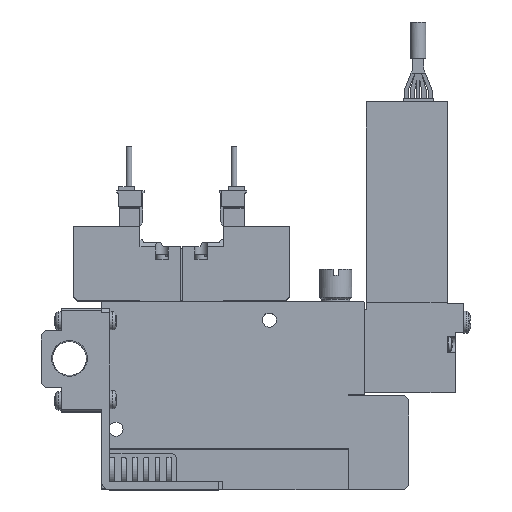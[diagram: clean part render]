
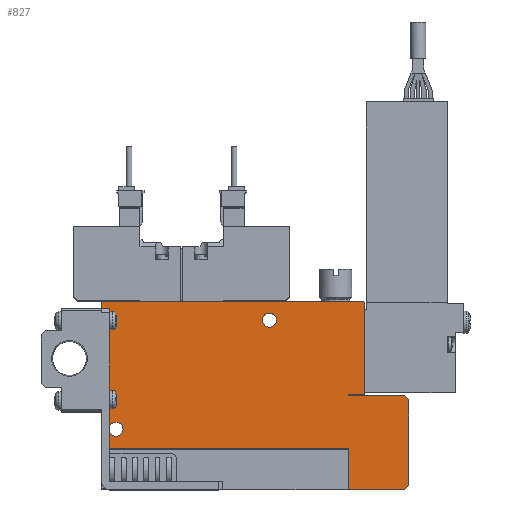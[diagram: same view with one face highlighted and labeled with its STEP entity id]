
A CAD part, top view. The second image highlights one B-rep face of the part: STEP entity #827.
In plain terms, the highlighted planar face has unit normal (0, 0, 1).
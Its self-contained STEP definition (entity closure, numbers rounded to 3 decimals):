
#827=ADVANCED_FACE('',(#1982,#1983,#1984),#1985,.F.);
#1982=FACE_OUTER_BOUND('',#3468,.T.);
#1983=FACE_BOUND('',#3469,.T.);
#1984=FACE_BOUND('',#3470,.T.);
#1985=PLANE('',#3471);
#3468=EDGE_LOOP('',(#7532,#7533,#7534,#7535,#7536,#7537,#7538,#7539,#7540,#7541,#7542,#7543,#7544,#7545));
#3469=EDGE_LOOP('',(#7546));
#3470=EDGE_LOOP('',(#7547));
#3471=AXIS2_PLACEMENT_3D('',#7548,#7549,#7550);
#7532=ORIENTED_EDGE('',*,*,#10545,.T.);
#7533=ORIENTED_EDGE('',*,*,#10508,.F.);
#7534=ORIENTED_EDGE('',*,*,#10431,.F.);
#7535=ORIENTED_EDGE('',*,*,#10562,.T.);
#7536=ORIENTED_EDGE('',*,*,#10623,.T.);
#7537=ORIENTED_EDGE('',*,*,#10558,.T.);
#7538=ORIENTED_EDGE('',*,*,#10498,.T.);
#7539=ORIENTED_EDGE('',*,*,#10624,.T.);
#7540=ORIENTED_EDGE('',*,*,#10564,.T.);
#7541=ORIENTED_EDGE('',*,*,#10506,.T.);
#7542=ORIENTED_EDGE('',*,*,#10625,.T.);
#7543=ORIENTED_EDGE('',*,*,#10626,.T.);
#7544=ORIENTED_EDGE('',*,*,#10627,.T.);
#7545=ORIENTED_EDGE('',*,*,#10576,.T.);
#7546=ORIENTED_EDGE('',*,*,#10567,.F.);
#7547=ORIENTED_EDGE('',*,*,#10366,.F.);
#7548=CARTESIAN_POINT('',(0.0,0.0,5.0));
#7549=DIRECTION('',(0.0,0.0,-1.0));
#7550=DIRECTION('',(0.0,-1.0,0.0));
#10366=EDGE_CURVE('',#12721,#12721,#12722,.T.);
#10431=EDGE_CURVE('',#12836,#12838,#12839,.T.);
#10498=EDGE_CURVE('',#12961,#12959,#12962,.T.);
#10506=EDGE_CURVE('',#12976,#12974,#12977,.T.);
#10508=EDGE_CURVE('',#12838,#12979,#12980,.T.);
#10545=EDGE_CURVE('',#13037,#12979,#13038,.T.);
#10558=EDGE_CURVE('',#13059,#12961,#13060,.T.);
#10562=EDGE_CURVE('',#12836,#13064,#13066,.T.);
#10564=EDGE_CURVE('',#13069,#12976,#13070,.T.);
#10567=EDGE_CURVE('',#13074,#13074,#13075,.T.);
#10576=EDGE_CURVE('',#13087,#13037,#13088,.T.);
#10623=EDGE_CURVE('',#13064,#13059,#13157,.T.);
#10624=EDGE_CURVE('',#12959,#13069,#13158,.T.);
#10625=EDGE_CURVE('',#12974,#13159,#13160,.T.);
#10626=EDGE_CURVE('',#13159,#13161,#13162,.T.);
#10627=EDGE_CURVE('',#13161,#13087,#13163,.T.);
#12721=VERTEX_POINT('',#16649);
#12722=CIRCLE('',#16650,1.75);
#12836=VERTEX_POINT('',#16857);
#12838=VERTEX_POINT('',#16860);
#12839=LINE('',#16861,#16862);
#12959=VERTEX_POINT('',#17068);
#12961=VERTEX_POINT('',#17071);
#12962=LINE('',#17072,#17073);
#12974=VERTEX_POINT('',#17090);
#12976=VERTEX_POINT('',#17093);
#12977=LINE('',#17094,#17095);
#12979=VERTEX_POINT('',#17098);
#12980=LINE('',#17099,#17100);
#13037=VERTEX_POINT('',#17185);
#13038=LINE('',#17186,#17187);
#13059=VERTEX_POINT('',#17219);
#13060=LINE('',#17220,#17221);
#13064=VERTEX_POINT('',#17227);
#13066=LINE('',#17230,#17231);
#13069=VERTEX_POINT('',#17235);
#13070=LINE('',#17236,#17237);
#13074=VERTEX_POINT('',#17242);
#13075=CIRCLE('',#17243,1.75);
#13087=VERTEX_POINT('',#17271);
#13088=LINE('',#17272,#17273);
#13157=LINE('',#17378,#17379);
#13158=LINE('',#17380,#17381);
#13159=VERTEX_POINT('',#17382);
#13160=LINE('',#17383,#17384);
#13161=VERTEX_POINT('',#17385);
#13162=LINE('',#17386,#17387);
#13163=LINE('',#17388,#17389);
#16649=CARTESIAN_POINT('',(43.25,42.0,5.0));
#16650=AXIS2_PLACEMENT_3D('',#20319,#20320,#20321);
#16857=CARTESIAN_POINT('',(61.1,0.0,5.0));
#16860=CARTESIAN_POINT('',(61.1,10.1,5.0));
#16861=CARTESIAN_POINT('',(61.1,0.0,5.0));
#16862=VECTOR('',#20407,1.0);
#17068=CARTESIAN_POINT('',(75.0,23.25,5.0));
#17071=CARTESIAN_POINT('',(76.0,22.25,5.0));
#17072=CARTESIAN_POINT('',(76.0,22.25,5.0));
#17073=VECTOR('',#20494,1.0);
#17090=CARTESIAN_POINT('',(65.0,23.5,5.0));
#17093=CARTESIAN_POINT('',(61.0,23.5,5.0));
#17094=CARTESIAN_POINT('',(61.0,23.5,5.0));
#17095=VECTOR('',#20504,1.0);
#17098=CARTESIAN_POINT('',(0.0,10.1,5.0));
#17099=CARTESIAN_POINT('',(61.1,10.1,5.0));
#17100=VECTOR('',#20506,1.0);
#17185=CARTESIAN_POINT('',(0.0,46.4,5.0));
#17186=CARTESIAN_POINT('',(0.0,46.4,5.0));
#17187=VECTOR('',#20559,1.0);
#17219=CARTESIAN_POINT('',(76.0,1.0,5.0));
#17220=CARTESIAN_POINT('',(76.0,1.0,5.0));
#17221=VECTOR('',#20574,1.0);
#17227=CARTESIAN_POINT('',(75.0,0.0,5.0));
#17230=CARTESIAN_POINT('',(0.0,0.0,5.0));
#17231=VECTOR('',#20578,1.0);
#17235=CARTESIAN_POINT('',(61.0,23.25,5.0));
#17236=CARTESIAN_POINT('',(61.0,23.25,5.0));
#17237=VECTOR('',#20580,1.0);
#17242=CARTESIAN_POINT('',(5.25,15.0,5.0));
#17243=AXIS2_PLACEMENT_3D('',#20585,#20586,#20587);
#17271=CARTESIAN_POINT('',(0.2,46.6,5.0));
#17272=CARTESIAN_POINT('',(0.2,46.6,5.0));
#17273=VECTOR('',#20597,1.0);
#17378=CARTESIAN_POINT('',(75.0,0.0,5.0));
#17379=VECTOR('',#20664,1.0);
#17380=CARTESIAN_POINT('',(75.0,23.25,5.0));
#17381=VECTOR('',#20665,1.0);
#17382=CARTESIAN_POINT('',(65.0,46.4,5.0));
#17383=CARTESIAN_POINT('',(65.0,23.5,5.0));
#17384=VECTOR('',#20666,1.0);
#17385=CARTESIAN_POINT('',(64.8,46.6,5.0));
#17386=CARTESIAN_POINT('',(65.0,46.4,5.0));
#17387=VECTOR('',#20667,1.0);
#17388=CARTESIAN_POINT('',(64.8,46.6,5.0));
#17389=VECTOR('',#20668,1.0);
#20319=CARTESIAN_POINT('',(41.5,42.0,5.0));
#20320=DIRECTION('',(0.0,0.0,1.0));
#20321=DIRECTION('',(1.0,0.0,0.0));
#20407=DIRECTION('',(0.0,1.0,0.0));
#20494=DIRECTION('',(-0.707,0.707,0.0));
#20504=DIRECTION('',(1.0,0.,0.0));
#20506=DIRECTION('',(-1.0,0.0,0.0));
#20559=DIRECTION('',(0.0,-1.0,0.0));
#20574=DIRECTION('',(0.0,1.0,0.0));
#20578=DIRECTION('',(1.0,0.0,0.0));
#20580=DIRECTION('',(0.0,1.0,0.0));
#20585=CARTESIAN_POINT('',(3.5,15.0,5.0));
#20586=DIRECTION('',(0.0,0.0,1.0));
#20587=DIRECTION('',(1.0,0.0,0.0));
#20597=DIRECTION('',(-0.707,-0.707,0.0));
#20664=DIRECTION('',(0.707,0.707,0.0));
#20665=DIRECTION('',(-1.0,0.0,0.0));
#20666=DIRECTION('',(0.0,1.0,0.0));
#20667=DIRECTION('',(-0.707,0.707,0.0));
#20668=DIRECTION('',(-1.0,0.0,0.0));
